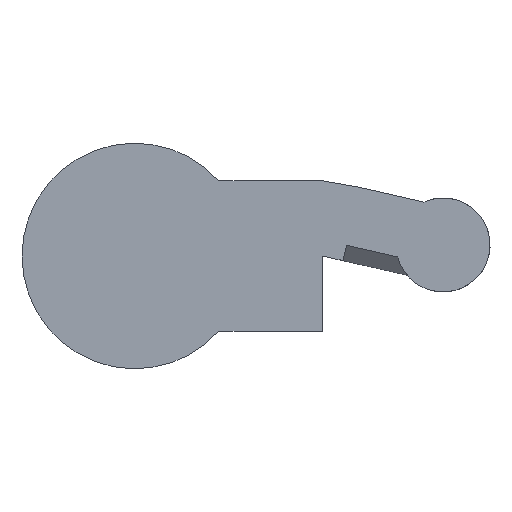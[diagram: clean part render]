
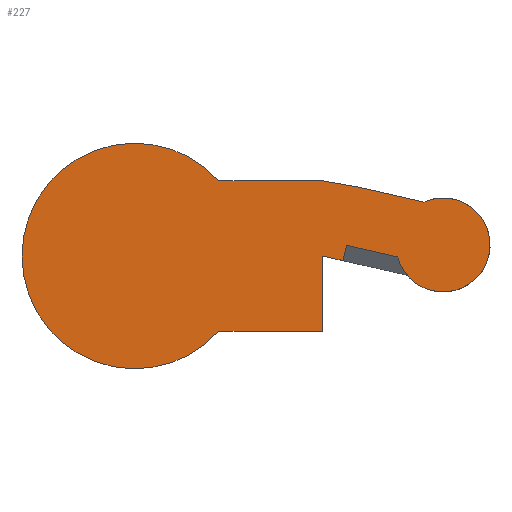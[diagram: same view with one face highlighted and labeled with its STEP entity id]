
A CAD part, front view. The second image highlights one B-rep face of the part: STEP entity #227.
In plain terms, the highlighted planar face has unit normal (0, -1, 0).
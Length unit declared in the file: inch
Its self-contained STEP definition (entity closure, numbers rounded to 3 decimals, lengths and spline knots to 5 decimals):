
#15=CIRCLE('',#233,0.125);
#17=CIRCLE('',#241,0.3);
#32=FACE_OUTER_BOUND('',#44,.T.);
#44=EDGE_LOOP('',(#196,#197,#198,#199,#200,#201,#202,#203,#204,#205));
#48=LINE('',#317,#73);
#51=LINE('',#328,#76);
#54=LINE('',#334,#79);
#56=LINE('',#338,#81);
#59=LINE('',#344,#84);
#62=LINE('',#350,#87);
#66=LINE('',#362,#91);
#69=LINE('',#367,#94);
#73=VECTOR('',#255,0.3937);
#76=VECTOR('',#266,0.3937);
#79=VECTOR('',#271,0.3937);
#81=VECTOR('',#275,0.3937);
#84=VECTOR('',#280,0.3937);
#87=VECTOR('',#285,0.3937);
#91=VECTOR('',#297,0.3937);
#94=VECTOR('',#302,0.3937);
#97=VERTEX_POINT('',#311);
#99=VERTEX_POINT('',#315);
#100=VERTEX_POINT('',#319);
#103=VERTEX_POINT('',#327);
#105=VERTEX_POINT('',#333);
#106=VERTEX_POINT('',#337);
#108=VERTEX_POINT('',#343);
#110=VERTEX_POINT('',#349);
#112=VERTEX_POINT('',#355);
#114=VERTEX_POINT('',#361);
#119=EDGE_CURVE('',#99,#97,#48,.T.);
#120=EDGE_CURVE('',#100,#99,#15,.T.);
#124=EDGE_CURVE('',#103,#100,#51,.T.);
#127=EDGE_CURVE('',#105,#97,#54,.T.);
#129=EDGE_CURVE('',#106,#103,#56,.T.);
#132=EDGE_CURVE('',#108,#105,#59,.T.);
#135=EDGE_CURVE('',#106,#110,#62,.T.);
#138=EDGE_CURVE('',#112,#110,#17,.T.);
#141=EDGE_CURVE('',#112,#114,#66,.T.);
#144=EDGE_CURVE('',#114,#108,#69,.T.);
#196=ORIENTED_EDGE('',*,*,#144,.T.);
#197=ORIENTED_EDGE('',*,*,#132,.T.);
#198=ORIENTED_EDGE('',*,*,#127,.T.);
#199=ORIENTED_EDGE('',*,*,#119,.F.);
#200=ORIENTED_EDGE('',*,*,#120,.F.);
#201=ORIENTED_EDGE('',*,*,#124,.F.);
#202=ORIENTED_EDGE('',*,*,#129,.F.);
#203=ORIENTED_EDGE('',*,*,#135,.T.);
#204=ORIENTED_EDGE('',*,*,#138,.F.);
#205=ORIENTED_EDGE('',*,*,#141,.T.);
#215=PLANE('',#246);
#227=ADVANCED_FACE('',(#32),#215,.F.);
#233=AXIS2_PLACEMENT_3D('',#320,#258,#259);
#241=AXIS2_PLACEMENT_3D('',#356,#290,#291);
#246=AXIS2_PLACEMENT_3D('',#370,#306,#307);
#255=DIRECTION('',(-0.975,0.,0.223));
#258=DIRECTION('center_axis',(0.,1.,0.));
#259=DIRECTION('ref_axis',(1.,0.,0.));
#266=DIRECTION('',(0.975,0.,-0.223));
#271=DIRECTION('',(0.223,0.,0.975));
#275=DIRECTION('',(0.985,0.,-0.174));
#280=DIRECTION('',(0.975,0.,-0.223));
#285=DIRECTION('',(-1.,0.,0.));
#290=DIRECTION('center_axis',(0.,1.,0.));
#291=DIRECTION('ref_axis',(1.,0.,0.));
#297=DIRECTION('',(1.,0.,0.));
#302=DIRECTION('',(0.,0.,1.));
#306=DIRECTION('center_axis',(0.,1.,0.));
#307=DIRECTION('ref_axis',(1.,0.,0.));
#311=CARTESIAN_POINT('',(0.56323,0.,0.02858));
#315=CARTESIAN_POINT('',(0.69901,0.,-0.00248));
#317=CARTESIAN_POINT('',(0.73535,0.,-0.0108));
#319=CARTESIAN_POINT('',(0.76907,0.,0.1436));
#320=CARTESIAN_POINT('Origin',(0.81988,0.,0.02939));
#327=CARTESIAN_POINT('',(0.59848,0.,0.18264));
#328=CARTESIAN_POINT('',(0.59848,0.,0.18264));
#333=CARTESIAN_POINT('',(0.55387,0.,-0.01233));
#334=CARTESIAN_POINT('',(0.55387,0.,-0.01233));
#337=CARTESIAN_POINT('',(0.5,0.,0.2));
#338=CARTESIAN_POINT('',(0.5,0.,0.2));
#343=CARTESIAN_POINT('',(0.5,0.,0.));
#344=CARTESIAN_POINT('',(0.5,0.,0.));
#349=CARTESIAN_POINT('',(0.22361,0.,0.2));
#350=CARTESIAN_POINT('',(0.5,0.,0.2));
#355=CARTESIAN_POINT('',(0.22361,0.,-0.2));
#356=CARTESIAN_POINT('Origin',(0.,0.,0.));
#361=CARTESIAN_POINT('',(0.5,0.,-0.2));
#362=CARTESIAN_POINT('',(0.22361,0.,-0.2));
#367=CARTESIAN_POINT('',(0.5,0.,0.));
#370=CARTESIAN_POINT('Origin',(0.32244,0.,0.));
